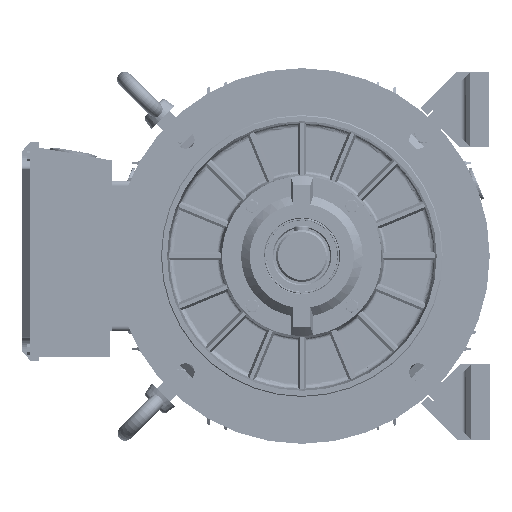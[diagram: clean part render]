
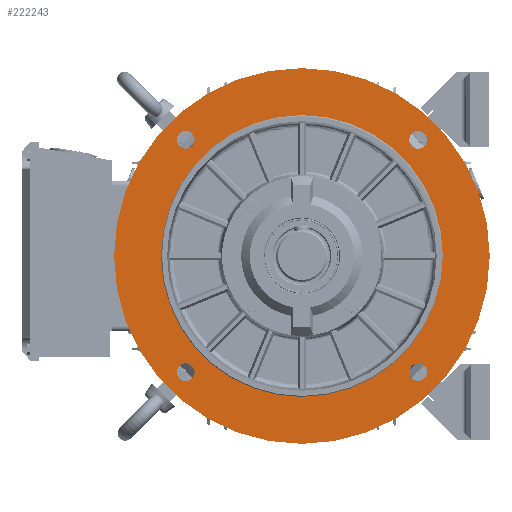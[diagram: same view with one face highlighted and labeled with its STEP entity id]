
A CAD part, left-side view. The second image highlights one B-rep face of the part: STEP entity #222243.
In plain terms, the highlighted planar face has unit normal (-1, 0, 0).
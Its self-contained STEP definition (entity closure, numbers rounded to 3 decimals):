
#14871 = CARTESIAN_POINT ( 'NONE',  ( -274.943, -136.359, -122.677 ) ) ;
#21847 = DIRECTION ( 'NONE',  ( -1., 0., 0. ) ) ;
#23051 = CARTESIAN_POINT ( 'NONE',  ( -274.943, 111.128, 115.31 ) ) ;
#24531 = CARTESIAN_POINT ( 'NONE',  ( -274.943, 111.128, 124.81 ) ) ;
#27069 = ORIENTED_EDGE ( 'NONE', *, *, #143316, .T. ) ;
#31917 = CARTESIAN_POINT ( 'NONE',  ( -274.943, -136.359, -122.677 ) ) ;
#37761 = AXIS2_PLACEMENT_3D ( 'NONE', #277247, #41642, #59591 ) ;
#38871 = AXIS2_PLACEMENT_3D ( 'NONE', #216009, #312887, #95271 ) ;
#41642 = DIRECTION ( 'NONE',  ( -1., 0., 0. ) ) ;
#42696 = CARTESIAN_POINT ( 'NONE',  ( -274.943, -12.616, 1.066 ) ) ;
#43609 = EDGE_CURVE ( 'NONE', #307813, #96846, #76073, .T. ) ;
#44834 = EDGE_LOOP ( 'NONE', ( #298420, #231317 ) ) ;
#54988 = CARTESIAN_POINT ( 'NONE',  ( -274.943, -136.359, -113.177 ) ) ;
#58347 = CARTESIAN_POINT ( 'NONE',  ( -274.943, -136.359, -132.177 ) ) ;
#58992 = CIRCLE ( 'NONE', #38871, 200. ) ;
#59591 = DIRECTION ( 'NONE',  ( 0., 0., -1. ) ) ;
#63136 = AXIS2_PLACEMENT_3D ( 'NONE', #197955, #220239, #126448 ) ;
#63458 = EDGE_CURVE ( 'NONE', #171641, #135360, #111957, .T. ) ;
#64442 = CARTESIAN_POINT ( 'NONE',  ( -274.943, -136.359, 115.31 ) ) ;
#66006 = VERTEX_POINT ( 'NONE', #54988 ) ;
#69632 = DIRECTION ( 'NONE',  ( -1., 0., 0. ) ) ;
#71083 = DIRECTION ( 'NONE',  ( 0., 0., -1. ) ) ;
#75832 = CIRCLE ( 'NONE', #106217, 200. ) ;
#76073 = CIRCLE ( 'NONE', #314383, 9.5 ) ;
#76740 = CARTESIAN_POINT ( 'NONE',  ( -274.943, -136.359, 124.81 ) ) ;
#76937 = FACE_BOUND ( 'NONE', #305939, .T. ) ;
#78523 = FACE_BOUND ( 'NONE', #101912, .T. ) ;
#78864 = EDGE_CURVE ( 'NONE', #311734, #268179, #283886, .T. ) ;
#89878 = DIRECTION ( 'NONE',  ( 0., 0., -1. ) ) ;
#93203 = ORIENTED_EDGE ( 'NONE', *, *, #240869, .F. ) ;
#93219 = DIRECTION ( 'NONE',  ( 0., 0., -1. ) ) ;
#93847 = EDGE_CURVE ( 'NONE', #110618, #282807, #58992, .T. ) ;
#95183 = CARTESIAN_POINT ( 'NONE',  ( -274.943, 111.128, -132.177 ) ) ;
#95271 = DIRECTION ( 'NONE',  ( 0., 0., -1. ) ) ;
#96846 = VERTEX_POINT ( 'NONE', #260679 ) ;
#101912 = EDGE_LOOP ( 'NONE', ( #168563, #143027 ) ) ;
#102319 = FACE_BOUND ( 'NONE', #160537, .T. ) ;
#104948 = DIRECTION ( 'NONE',  ( -1., 0., 0. ) ) ;
#106217 = AXIS2_PLACEMENT_3D ( 'NONE', #42696, #69632, #142728 ) ;
#108557 = FACE_BOUND ( 'NONE', #282584, .T. ) ;
#110618 = VERTEX_POINT ( 'NONE', #194144 ) ;
#111957 = CIRCLE ( 'NONE', #188095, 9.5 ) ;
#113736 = CARTESIAN_POINT ( 'NONE',  ( -274.943, 111.128, 124.81 ) ) ;
#115392 = VERTEX_POINT ( 'NONE', #172987 ) ;
#121649 = EDGE_CURVE ( 'NONE', #66006, #132446, #224555, .T. ) ;
#121783 = CARTESIAN_POINT ( 'NONE',  ( -274.943, -12.616, -198.934 ) ) ;
#126448 = DIRECTION ( 'NONE',  ( 0., 0., -1. ) ) ;
#127466 = CARTESIAN_POINT ( 'NONE',  ( -274.943, 111.128, 134.31 ) ) ;
#132388 = DIRECTION ( 'NONE',  ( 0., -1., 0. ) ) ;
#132446 = VERTEX_POINT ( 'NONE', #58347 ) ;
#135360 = VERTEX_POINT ( 'NONE', #64442 ) ;
#135561 = DIRECTION ( 'NONE',  ( 0., 0., -1. ) ) ;
#136186 = AXIS2_PLACEMENT_3D ( 'NONE', #76740, #270538, #149794 ) ;
#140862 = DIRECTION ( 'NONE',  ( -1., 0., 0. ) ) ;
#142728 = DIRECTION ( 'NONE',  ( 0., 0., -1. ) ) ;
#143027 = ORIENTED_EDGE ( 'NONE', *, *, #121649, .F. ) ;
#143316 = EDGE_CURVE ( 'NONE', #282807, #110618, #75832, .T. ) ;
#143684 = DIRECTION ( 'NONE',  ( 0., 0., -1. ) ) ;
#148526 = AXIS2_PLACEMENT_3D ( 'NONE', #248458, #173797, #132388 ) ;
#149794 = DIRECTION ( 'NONE',  ( 0., 0., -1. ) ) ;
#156199 = FACE_BOUND ( 'NONE', #44834, .T. ) ;
#160537 = EDGE_LOOP ( 'NONE', ( #245086, #190641 ) ) ;
#165076 = EDGE_CURVE ( 'NONE', #132446, #66006, #305612, .T. ) ;
#166244 = ORIENTED_EDGE ( 'NONE', *, *, #93847, .T. ) ;
#167814 = CARTESIAN_POINT ( 'NONE',  ( -274.943, 111.128, -122.677 ) ) ;
#168563 = ORIENTED_EDGE ( 'NONE', *, *, #165076, .F. ) ;
#171641 = VERTEX_POINT ( 'NONE', #261066 ) ;
#172331 = CIRCLE ( 'NONE', #294132, 150. ) ;
#172682 = VERTEX_POINT ( 'NONE', #183347 ) ;
#172987 = CARTESIAN_POINT ( 'NONE',  ( -274.943, -12.616, 151.066 ) ) ;
#173797 = DIRECTION ( 'NONE',  ( 1., 0., 0. ) ) ;
#175381 = PLANE ( 'NONE',  #148526 ) ;
#183347 = CARTESIAN_POINT ( 'NONE',  ( -274.943, -12.616, -148.934 ) ) ;
#184932 = EDGE_LOOP ( 'NONE', ( #27069, #166244 ) ) ;
#188095 = AXIS2_PLACEMENT_3D ( 'NONE', #236268, #237806, #310886 ) ;
#188201 = DIRECTION ( 'NONE',  ( -1., 0., 0. ) ) ;
#190641 = ORIENTED_EDGE ( 'NONE', *, *, #78864, .F. ) ;
#194144 = CARTESIAN_POINT ( 'NONE',  ( -274.943, -12.616, 201.066 ) ) ;
#194818 = EDGE_CURVE ( 'NONE', #268179, #311734, #313181, .T. ) ;
#196182 = EDGE_CURVE ( 'NONE', #135360, #171641, #313735, .T. ) ;
#197731 = AXIS2_PLACEMENT_3D ( 'NONE', #24531, #188201, #143684 ) ;
#197955 = CARTESIAN_POINT ( 'NONE',  ( -274.943, 111.128, -122.677 ) ) ;
#214199 = AXIS2_PLACEMENT_3D ( 'NONE', #14871, #254741, #135561 ) ;
#216009 = CARTESIAN_POINT ( 'NONE',  ( -274.943, -12.616, 1.066 ) ) ;
#220239 = DIRECTION ( 'NONE',  ( -1., 0., 0. ) ) ;
#222243 = ADVANCED_FACE ( 'NONE', ( #224620, #102319, #108557, #78523, #156199, #76937 ), #175381, .F. ) ;
#224555 = CIRCLE ( 'NONE', #229532, 9.5 ) ;
#224620 = FACE_OUTER_BOUND ( 'NONE', #184932, .T. ) ;
#225503 = CIRCLE ( 'NONE', #37761, 150. ) ;
#229532 = AXIS2_PLACEMENT_3D ( 'NONE', #31917, #104948, #297198 ) ;
#230496 = CIRCLE ( 'NONE', #63136, 9.5 ) ;
#231317 = ORIENTED_EDGE ( 'NONE', *, *, #63458, .F. ) ;
#236268 = CARTESIAN_POINT ( 'NONE',  ( -274.943, -136.359, 124.81 ) ) ;
#237806 = DIRECTION ( 'NONE',  ( -1., 0., 0. ) ) ;
#239489 = CARTESIAN_POINT ( 'NONE',  ( -274.943, -12.616, 1.066 ) ) ;
#240869 = EDGE_CURVE ( 'NONE', #96846, #307813, #230496, .T. ) ;
#240971 = EDGE_CURVE ( 'NONE', #115392, #172682, #225503, .T. ) ;
#245086 = ORIENTED_EDGE ( 'NONE', *, *, #194818, .F. ) ;
#248458 = CARTESIAN_POINT ( 'NONE',  ( -274.943, -162.616, 1.066 ) ) ;
#254741 = DIRECTION ( 'NONE',  ( -1., 0., 0. ) ) ;
#260679 = CARTESIAN_POINT ( 'NONE',  ( -274.943, 111.128, -113.177 ) ) ;
#261066 = CARTESIAN_POINT ( 'NONE',  ( -274.943, -136.359, 134.31 ) ) ;
#266926 = ORIENTED_EDGE ( 'NONE', *, *, #240971, .F. ) ;
#268179 = VERTEX_POINT ( 'NONE', #23051 ) ;
#270538 = DIRECTION ( 'NONE',  ( -1., 0., 0. ) ) ;
#277247 = CARTESIAN_POINT ( 'NONE',  ( -274.943, -12.616, 1.066 ) ) ;
#282584 = EDGE_LOOP ( 'NONE', ( #310205, #93203 ) ) ;
#282807 = VERTEX_POINT ( 'NONE', #121783 ) ;
#283632 = ORIENTED_EDGE ( 'NONE', *, *, #294640, .F. ) ;
#283886 = CIRCLE ( 'NONE', #197731, 9.5 ) ;
#294132 = AXIS2_PLACEMENT_3D ( 'NONE', #239489, #21847, #71083 ) ;
#294640 = EDGE_CURVE ( 'NONE', #172682, #115392, #172331, .T. ) ;
#297198 = DIRECTION ( 'NONE',  ( 0., 0., -1. ) ) ;
#298420 = ORIENTED_EDGE ( 'NONE', *, *, #196182, .F. ) ;
#303160 = AXIS2_PLACEMENT_3D ( 'NONE', #113736, #307516, #89878 ) ;
#305612 = CIRCLE ( 'NONE', #214199, 9.5 ) ;
#305939 = EDGE_LOOP ( 'NONE', ( #283632, #266926 ) ) ;
#307516 = DIRECTION ( 'NONE',  ( -1., 0., 0. ) ) ;
#307813 = VERTEX_POINT ( 'NONE', #95183 ) ;
#310205 = ORIENTED_EDGE ( 'NONE', *, *, #43609, .F. ) ;
#310886 = DIRECTION ( 'NONE',  ( 0., 0., -1. ) ) ;
#311734 = VERTEX_POINT ( 'NONE', #127466 ) ;
#312887 = DIRECTION ( 'NONE',  ( -1., 0., 0. ) ) ;
#313181 = CIRCLE ( 'NONE', #303160, 9.5 ) ;
#313735 = CIRCLE ( 'NONE', #136186, 9.5 ) ;
#314383 = AXIS2_PLACEMENT_3D ( 'NONE', #167814, #140862, #93219 ) ;
